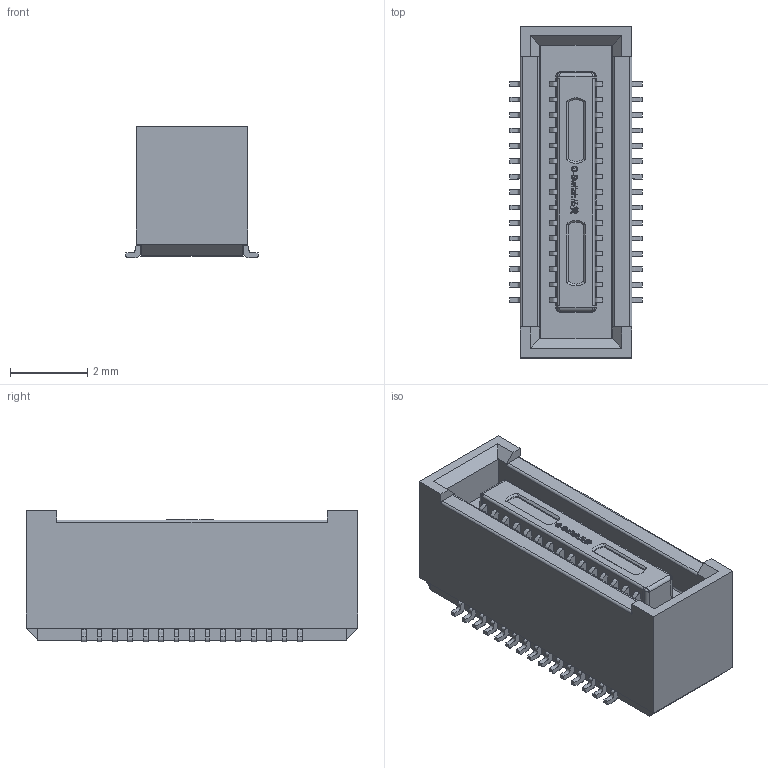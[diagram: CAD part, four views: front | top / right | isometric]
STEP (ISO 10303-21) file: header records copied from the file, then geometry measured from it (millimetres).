
FILE_DESCRIPTION (( 'STEP AP203' ), '1' );
FILE_NAME ('GT-B0403FSV34-XXXXX01.STEP', '2024-01-08T01:41:40', ( 'Microsoft' ), ( 'Microsoft' ), 'SwSTEP 2.0', 'SolidWorks 2023', '' );
FILE_SCHEMA (( 'CONFIG_CONTROL_DESIGN' ));
Length unit declared in the file: millimetre
Products named in the file (1): GT-B0403FSV34-XXXXX01
Bounding box: 3.43 x 8.6 x 3.4 mm (x, y, z)
Volume: 70.6 mm3; surface area: 161.6 mm2
Topology: 1 solids, 1 shells, 595 faces, 1532 edges, 1022 vertices
Faces by surface type: plane 371, bspline 172, cylinder 40, cone 12
Entity records: 29663 total; most frequent: CARTESIAN_POINT 16560, ORIENTED_EDGE 3064, DIRECTION 2056, EDGE_CURVE 1532, LINE 1044, VECTOR 1044, VERTEX_POINT 1022, EDGE_LOOP 678
